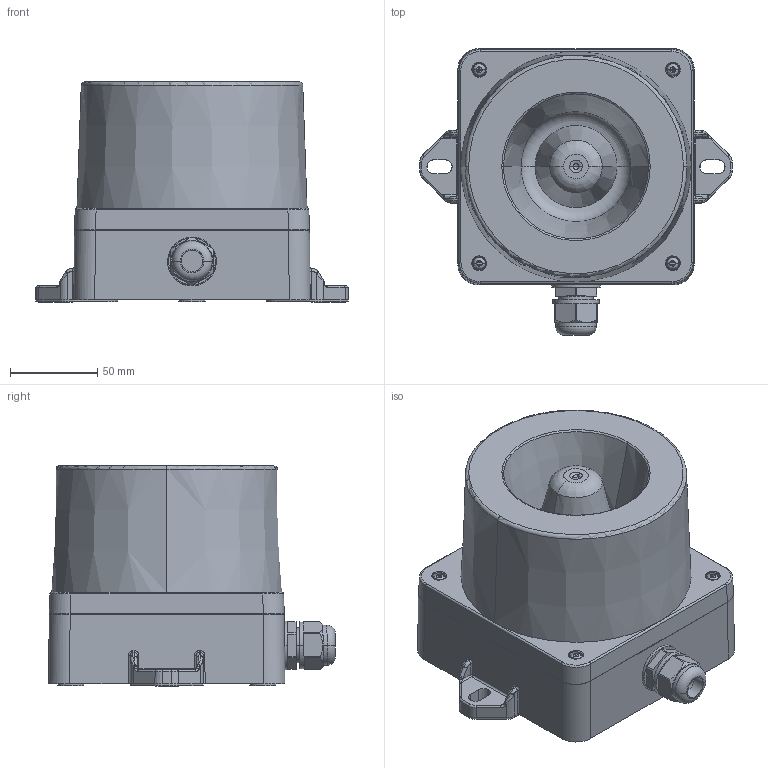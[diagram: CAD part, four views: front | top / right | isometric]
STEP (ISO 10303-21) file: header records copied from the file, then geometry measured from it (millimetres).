
FILE_DESCRIPTION (( 'STEP AP203' ), '1' );
FILE_NAME ('QKR572_3D00160 QWCD35 3D紫賊_220807.STEP', '2022-08-09T07:28:12', ( 'QKR_NOTE119' ), ( '' ), 'SwSTEP 2.0', 'SolidWorks 2019', '' );
FILE_SCHEMA (( 'CONFIG_CONTROL_DESIGN' ));
Length unit declared in the file: millimetre
Products named in the file (1): QKR572_3D00160 QWCD35 3D紫賊_220807
Bounding box: 179.2 x 164.47 x 126.3 mm (x, y, z)
Volume: 1737535.8 mm3; surface area: 169723.7 mm2
Topology: 1 solids, 7 shells, 861 faces, 2158 edges, 1363 vertices
Faces by surface type: plane 371, cone 246, cylinder 136, bspline 72, torus 32, sphere 4
Entity records: 34055 total; most frequent: CARTESIAN_POINT 14361, ORIENTED_EDGE 4276, DIRECTION 3830, EDGE_CURVE 2138, AXIS2_PLACEMENT_3D 1372, VERTEX_POINT 1363, LINE 1086, VECTOR 1086
